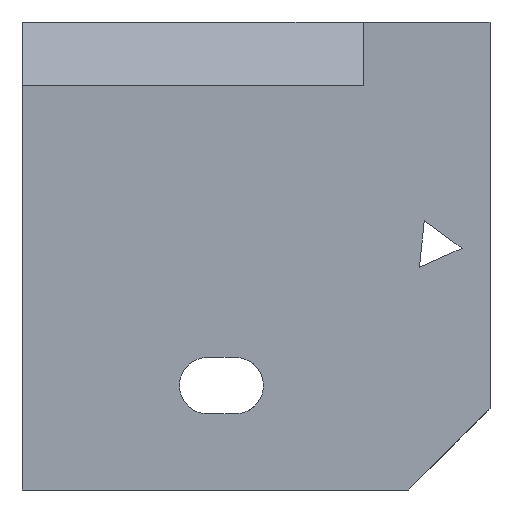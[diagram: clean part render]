
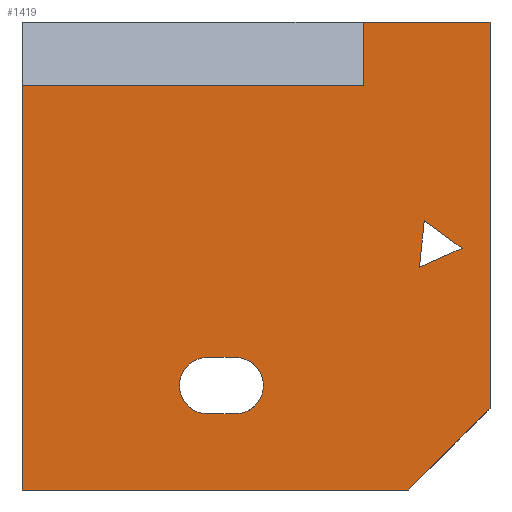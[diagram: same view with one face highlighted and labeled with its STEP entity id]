
A CAD part, left-side view. The second image highlights one B-rep face of the part: STEP entity #1419.
In plain terms, the highlighted planar face has unit normal (-1, 0, 0).
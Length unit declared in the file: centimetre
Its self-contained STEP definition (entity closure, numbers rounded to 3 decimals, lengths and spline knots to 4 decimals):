
#5 = CARTESIAN_POINT ( 'NONE',  ( 0., 603.0713, 283.5544 ) ) ;
#24 = LINE ( 'NONE', #1268, #211 ) ;
#25 = VERTEX_POINT ( 'NONE', #365 ) ;
#28 = DIRECTION ( 'NONE',  ( -1., 0., 0. ) ) ;
#29 = CARTESIAN_POINT ( 'NONE',  ( 0., 150.8108, 475.8688 ) ) ;
#40 = EDGE_LOOP ( 'NONE', ( #1146, #1354, #255 ) ) ;
#42 = DIRECTION ( 'NONE',  ( 0., 0., -1. ) ) ;
#44 = DIRECTION ( 'NONE',  ( 0., 0.81, 0.587 ) ) ;
#66 = LINE ( 'NONE', #522, #1276 ) ;
#68 = EDGE_CURVE ( 'NONE', #646, #557, #569, .T. ) ;
#71 = VERTEX_POINT ( 'NONE', #1013 ) ;
#96 = EDGE_LOOP ( 'NONE', ( #1006, #270, #922, #1327, #625, #1121, #1196 ) ) ;
#102 = CARTESIAN_POINT ( 'NONE',  ( 0., 544.5634, 283.5544 ) ) ;
#104 = FACE_BOUND ( 'NONE', #40, .T. ) ;
#156 = CARTESIAN_POINT ( 'NONE',  ( 0., 140.4624, 575.1969 ) ) ;
#167 = CARTESIAN_POINT ( 'NONE',  ( 0., 271.0393, 863.6744 ) ) ;
#171 = EDGE_CURVE ( 'NONE', #183, #71, #1059, .T. ) ;
#172 = CARTESIAN_POINT ( 'NONE',  ( 0., 150.8108, 475.8688 ) ) ;
#177 = AXIS2_PLACEMENT_3D ( 'NONE', #891, #1136, #321 ) ;
#183 = VERTEX_POINT ( 'NONE', #503 ) ;
#205 = VERTEX_POINT ( 'NONE', #719 ) ;
#211 = VECTOR ( 'NONE', #596, 100. ) ;
#213 = ORIENTED_EDGE ( 'NONE', *, *, #236, .F. ) ;
#232 = VERTEX_POINT ( 'NONE', #595 ) ;
#236 = EDGE_CURVE ( 'NONE', #1340, #646, #1350, .T. ) ;
#255 = ORIENTED_EDGE ( 'NONE', *, *, #171, .F. ) ;
#270 = ORIENTED_EDGE ( 'NONE', *, *, #873, .T. ) ;
#276 = DIRECTION ( 'NONE',  ( 0., -0.707, 0.707 ) ) ;
#286 = CIRCLE ( 'NONE', #923, 60.3988 ) ;
#311 = VECTOR ( 'NONE', #44, 100. ) ;
#321 = DIRECTION ( 'NONE',  ( 0., 0., -1. ) ) ;
#333 = VERTEX_POINT ( 'NONE', #172 ) ;
#364 = EDGE_CURVE ( 'NONE', #71, #333, #960, .T. ) ;
#365 = CARTESIAN_POINT ( 'NONE',  ( 0., 0., 174.07 ) ) ;
#367 = DIRECTION ( 'NONE',  ( 0., 0., -1. ) ) ;
#383 = EDGE_CURVE ( 'NONE', #715, #25, #66, .T. ) ;
#398 = LINE ( 'NONE', #1069, #1172 ) ;
#457 = DIRECTION ( 'NONE',  ( 0., 1., 0. ) ) ;
#471 = DIRECTION ( 'NONE',  ( 0., 0., 1. ) ) ;
#495 = CARTESIAN_POINT ( 'NONE',  ( 0., 603.0713, 223.1556 ) ) ;
#501 = VECTOR ( 'NONE', #729, 100. ) ;
#503 = CARTESIAN_POINT ( 'NONE',  ( 0., 59.6159, 516.5709 ) ) ;
#518 = EDGE_LOOP ( 'NONE', ( #916, #213, #733, #778 ) ) ;
#522 = CARTESIAN_POINT ( 'NONE',  ( 0., 0., 174.07 ) ) ;
#527 = CARTESIAN_POINT ( 'NONE',  ( 0., 544.5634, 162.7569 ) ) ;
#541 = DIRECTION ( 'NONE',  ( 0., -1., 0. ) ) ;
#545 = VERTEX_POINT ( 'NONE', #881 ) ;
#557 = VERTEX_POINT ( 'NONE', #972 ) ;
#566 = PLANE ( 'NONE',  #177 ) ;
#569 = LINE ( 'NONE', #5, #671 ) ;
#593 = VECTOR ( 'NONE', #471, 100. ) ;
#595 = CARTESIAN_POINT ( 'NONE',  ( 0., 1000., 863.6744 ) ) ;
#596 = DIRECTION ( 'NONE',  ( 0., 0., -1. ) ) ;
#601 = DIRECTION ( 'NONE',  ( 0., 0., -1. ) ) ;
#607 = LINE ( 'NONE', #1289, #999 ) ;
#619 = EDGE_CURVE ( 'NONE', #205, #944, #791, .T. ) ;
#625 = ORIENTED_EDGE ( 'NONE', *, *, #383, .T. ) ;
#632 = VECTOR ( 'NONE', #541, 100. ) ;
#646 = VERTEX_POINT ( 'NONE', #102 ) ;
#661 = FACE_BOUND ( 'NONE', #518, .T. ) ;
#668 = FACE_OUTER_BOUND ( 'NONE', #96, .T. ) ;
#671 = VECTOR ( 'NONE', #457, 100. ) ;
#682 = EDGE_CURVE ( 'NONE', #333, #183, #817, .T. ) ;
#688 = CARTESIAN_POINT ( 'NONE',  ( 0., 271.0393, 1000. ) ) ;
#710 = AXIS2_PLACEMENT_3D ( 'NONE', #1044, #28, #601 ) ;
#715 = VERTEX_POINT ( 'NONE', #1152 ) ;
#719 = CARTESIAN_POINT ( 'NONE',  ( 0., 271.0393, 863.6744 ) ) ;
#729 = DIRECTION ( 'NONE',  ( 0., 0.104, -0.995 ) ) ;
#733 = ORIENTED_EDGE ( 'NONE', *, *, #1316, .F. ) ;
#742 = CARTESIAN_POINT ( 'NONE',  ( 0., 1000., 0. ) ) ;
#747 = EDGE_CURVE ( 'NONE', #557, #1269, #286, .T. ) ;
#765 = EDGE_CURVE ( 'NONE', #545, #25, #24, .T. ) ;
#778 = ORIENTED_EDGE ( 'NONE', *, *, #747, .F. ) ;
#791 = LINE ( 'NONE', #688, #593 ) ;
#814 = EDGE_CURVE ( 'NONE', #232, #875, #607, .T. ) ;
#817 = LINE ( 'NONE', #29, #1041 ) ;
#828 = DIRECTION ( 'NONE',  ( 0., 1., 0. ) ) ;
#845 = EDGE_CURVE ( 'NONE', #944, #545, #965, .T. ) ;
#851 = CARTESIAN_POINT ( 'NONE',  ( 0., 1000., 1000. ) ) ;
#873 = EDGE_CURVE ( 'NONE', #205, #232, #1303, .T. ) ;
#875 = VERTEX_POINT ( 'NONE', #742 ) ;
#881 = CARTESIAN_POINT ( 'NONE',  ( 0., 0., 1000. ) ) ;
#891 = CARTESIAN_POINT ( 'NONE',  ( 0., 1000., 1000. ) ) ;
#916 = ORIENTED_EDGE ( 'NONE', *, *, #68, .F. ) ;
#922 = ORIENTED_EDGE ( 'NONE', *, *, #814, .T. ) ;
#923 = AXIS2_PLACEMENT_3D ( 'NONE', #495, #1159, #367 ) ;
#944 = VERTEX_POINT ( 'NONE', #1064 ) ;
#947 = DIRECTION ( 'NONE',  ( 0., -1., 0. ) ) ;
#958 = LINE ( 'NONE', #527, #632 ) ;
#960 = LINE ( 'NONE', #156, #501 ) ;
#965 = LINE ( 'NONE', #851, #1374 ) ;
#972 = CARTESIAN_POINT ( 'NONE',  ( 0., 603.0713, 283.5544 ) ) ;
#999 = VECTOR ( 'NONE', #42, 100. ) ;
#1006 = ORIENTED_EDGE ( 'NONE', *, *, #619, .F. ) ;
#1013 = CARTESIAN_POINT ( 'NONE',  ( 0., 140.4624, 575.1969 ) ) ;
#1041 = VECTOR ( 'NONE', #1388, 100. ) ;
#1044 = CARTESIAN_POINT ( 'NONE',  ( 0., 544.5634, 223.1556 ) ) ;
#1059 = LINE ( 'NONE', #1401, #311 ) ;
#1064 = CARTESIAN_POINT ( 'NONE',  ( 0., 271.0393, 1000. ) ) ;
#1069 = CARTESIAN_POINT ( 'NONE',  ( 0., 1000., 0. ) ) ;
#1121 = ORIENTED_EDGE ( 'NONE', *, *, #765, .F. ) ;
#1136 = DIRECTION ( 'NONE',  ( 1., 0., 0. ) ) ;
#1138 = VECTOR ( 'NONE', #828, 100. ) ;
#1146 = ORIENTED_EDGE ( 'NONE', *, *, #682, .F. ) ;
#1152 = CARTESIAN_POINT ( 'NONE',  ( 0., 174.07, 0. ) ) ;
#1159 = DIRECTION ( 'NONE',  ( -1., 0., 0. ) ) ;
#1172 = VECTOR ( 'NONE', #1197, 100. ) ;
#1196 = ORIENTED_EDGE ( 'NONE', *, *, #845, .F. ) ;
#1197 = DIRECTION ( 'NONE',  ( 0., -1., 0. ) ) ;
#1224 = EDGE_CURVE ( 'NONE', #875, #715, #398, .T. ) ;
#1268 = CARTESIAN_POINT ( 'NONE',  ( 0., 0., 1000. ) ) ;
#1269 = VERTEX_POINT ( 'NONE', #1411 ) ;
#1276 = VECTOR ( 'NONE', #276, 100. ) ;
#1289 = CARTESIAN_POINT ( 'NONE',  ( 0., 1000., 1000. ) ) ;
#1303 = LINE ( 'NONE', #167, #1138 ) ;
#1314 = CARTESIAN_POINT ( 'NONE',  ( 0., 544.5634, 162.7569 ) ) ;
#1316 = EDGE_CURVE ( 'NONE', #1269, #1340, #958, .T. ) ;
#1327 = ORIENTED_EDGE ( 'NONE', *, *, #1224, .T. ) ;
#1340 = VERTEX_POINT ( 'NONE', #1314 ) ;
#1350 = CIRCLE ( 'NONE', #710, 60.3988 ) ;
#1354 = ORIENTED_EDGE ( 'NONE', *, *, #364, .F. ) ;
#1374 = VECTOR ( 'NONE', #947, 100. ) ;
#1388 = DIRECTION ( 'NONE',  ( 0., -0.913, 0.408 ) ) ;
#1401 = CARTESIAN_POINT ( 'NONE',  ( 0., 59.6159, 516.5709 ) ) ;
#1411 = CARTESIAN_POINT ( 'NONE',  ( 0., 603.0713, 162.7569 ) ) ;
#1419 = ADVANCED_FACE ( 'NONE', ( #104, #661, #668 ), #566, .F. ) ;
